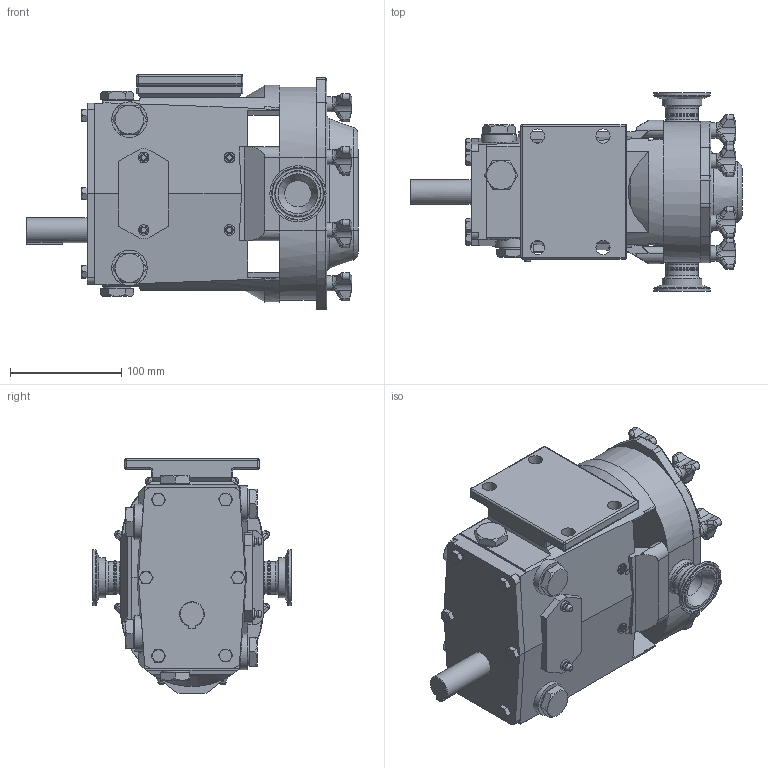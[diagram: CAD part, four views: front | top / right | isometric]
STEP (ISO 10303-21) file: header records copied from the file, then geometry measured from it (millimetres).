
FILE_DESCRIPTION(/* description */ (''),/* implementation_level */ '2;1');
FILE_NAME(/* name */ 'u1 006 upper shaft.stp',/* time_stamp */ '2024-10-02T15:04:40-05:00',/* author */ ('HWNME6'),/* organization */ (''),/* preprocessor_version */ 'ST-DEVELOPER v19.2',/* originating_system */ 'Autodesk Inventor 2023',/* authorisation */ '');
FILE_SCHEMA (('CONFIG_CONTROL_DESIGN'));
Products named in the file (1): 006 u1 upper lower_Simplify_1
Bounding box: 297.87 x 178.21 x 210.85 mm (x, y, z)
Volume: 3918369.9 mm3; surface area: 256811.9 mm2
Topology: 1 solids, 1 shells, 1243 faces, 3131 edges, 1938 vertices
Faces by surface type: plane 660, bspline 279, cylinder 155, cone 85, torus 56, sphere 8
Full cylindrical faces by diameter (mm): 9.525 x4, 12.7 x4, 13.462 x8, 22.225 x1, 23.8 x2, 23.876 x2, 25.4 x2, 25.5 x6, 29.362 x4, 30.378 x2, 31.75 x4, 35.712 x2, 50.394 x2
Entity records: 49909 total; most frequent: CARTESIAN_POINT 22676, ORIENTED_EDGE 6150, DIRECTION 4860, EDGE_CURVE 3075, VERTEX_POINT 1938, LINE 1708, VECTOR 1708, AXIS2_PLACEMENT_3D 1576
